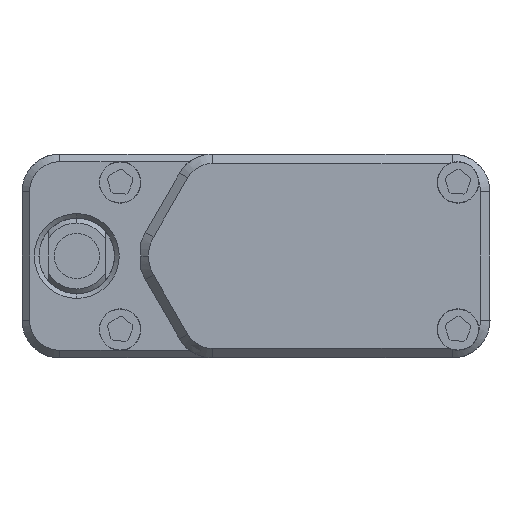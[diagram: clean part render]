
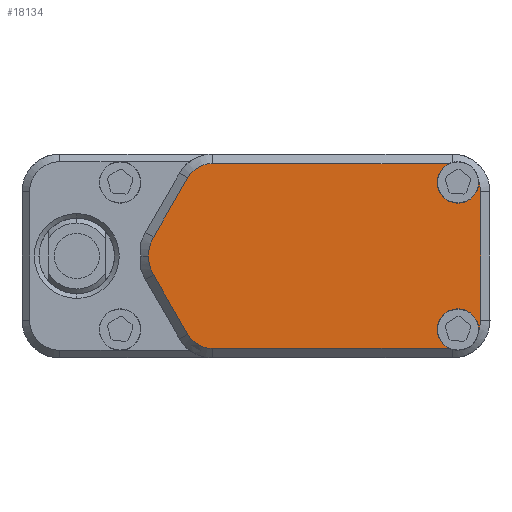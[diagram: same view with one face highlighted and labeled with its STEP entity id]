
A CAD part, front view. The second image highlights one B-rep face of the part: STEP entity #18134.
In plain terms, the highlighted planar face has unit normal (0, -1, 0).
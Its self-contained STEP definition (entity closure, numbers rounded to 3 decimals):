
#24 = CIRCLE ( 'NONE', #6945, 1.1 ) ;
#1096 = EDGE_CURVE ( 'NONE', #49240, #4390, #39667, .T. ) ;
#1484 = VERTEX_POINT ( 'NONE', #38083 ) ;
#2066 = ORIENTED_EDGE ( 'NONE', *, *, #42917, .T. ) ;
#2618 = VERTEX_POINT ( 'NONE', #33180 ) ;
#3071 = ORIENTED_EDGE ( 'NONE', *, *, #9597, .T. ) ;
#3108 = DIRECTION ( 'NONE',  ( 0., 0., -1. ) ) ;
#3703 = EDGE_CURVE ( 'NONE', #38082, #1484, #40152, .T. ) ;
#3793 = DIRECTION ( 'NONE',  ( 0., -1., 0. ) ) ;
#4027 = CARTESIAN_POINT ( 'NONE',  ( -5.432, 6.7, 1. ) ) ;
#4390 = VERTEX_POINT ( 'NONE', #51218 ) ;
#5044 = DIRECTION ( 'NONE',  ( 0., 0., -1. ) ) ;
#5426 = AXIS2_PLACEMENT_3D ( 'NONE', #33952, #33411, #30130 ) ;
#6439 = DIRECTION ( 'NONE',  ( -1., 0., 0. ) ) ;
#6545 = EDGE_CURVE ( 'NONE', #2618, #9005, #39968, .T. ) ;
#6945 = AXIS2_PLACEMENT_3D ( 'NONE', #15270, #35881, #3108 ) ;
#7351 = ORIENTED_EDGE ( 'NONE', *, *, #42056, .T. ) ;
#7373 = CARTESIAN_POINT ( 'NONE',  ( 10.4, 6.7, -3.4 ) ) ;
#7393 = CARTESIAN_POINT ( 'NONE',  ( -3.613, 6.7, -4.15 ) ) ;
#7425 = CIRCLE ( 'NONE', #9129, 2. ) ;
#7458 = ORIENTED_EDGE ( 'NONE', *, *, #21113, .T. ) ;
#8047 = CARTESIAN_POINT ( 'NONE',  ( 10.4, 6.7, 3.4 ) ) ;
#8854 = VERTEX_POINT ( 'NONE', #34734 ) ;
#9005 = VERTEX_POINT ( 'NONE', #7393 ) ;
#9129 = AXIS2_PLACEMENT_3D ( 'NONE', #52392, #23323, #40436 ) ;
#9322 = FACE_OUTER_BOUND ( 'NONE', #46884, .T. ) ;
#9597 = EDGE_CURVE ( 'NONE', #4390, #22563, #16160, .T. ) ;
#10107 = CARTESIAN_POINT ( 'NONE',  ( 11.9, 6.7, 0. ) ) ;
#10133 = CARTESIAN_POINT ( 'NONE',  ( -2.314, 6.7, 4.9 ) ) ;
#10393 = DIRECTION ( 'NONE',  ( 0., 0., 1. ) ) ;
#12546 = DIRECTION ( 'NONE',  ( 0., 0., -1. ) ) ;
#12621 = CARTESIAN_POINT ( 'NONE',  ( 11.799, 6.7, -3.94 ) ) ;
#12995 = VECTOR ( 'NONE', #10393, 1000. ) ;
#13721 = AXIS2_PLACEMENT_3D ( 'NONE', #37269, #16668, #25039 ) ;
#13743 = DIRECTION ( 'NONE',  ( 0., 1., 0. ) ) ;
#14554 = CARTESIAN_POINT ( 'NONE',  ( -2.314, 6.7, -3.4 ) ) ;
#14755 = VERTEX_POINT ( 'NONE', #19702 ) ;
#14821 = AXIS2_PLACEMENT_3D ( 'NONE', #14554, #13743, #31090 ) ;
#15270 = CARTESIAN_POINT ( 'NONE',  ( 10.7, 6.7, -3.9 ) ) ;
#16074 = CIRCLE ( 'NONE', #32521, 1.5 ) ;
#16160 = LINE ( 'NONE', #44696, #41553 ) ;
#16461 = EDGE_CURVE ( 'NONE', #44636, #8854, #18359, .T. ) ;
#16485 = CARTESIAN_POINT ( 'NONE',  ( -2.314, 6.7, 3.4 ) ) ;
#16642 = VECTOR ( 'NONE', #6439, 1000. ) ;
#16668 = DIRECTION ( 'NONE',  ( 0., -1., 0. ) ) ;
#16960 = ORIENTED_EDGE ( 'NONE', *, *, #52017, .T. ) ;
#17888 = DIRECTION ( 'NONE',  ( 0., 1., 0. ) ) ;
#18134 = ADVANCED_FACE ( 'NONE', ( #9322 ), #20988, .T. ) ;
#18359 = CIRCLE ( 'NONE', #25315, 1.1 ) ;
#19107 = VECTOR ( 'NONE', #26874, 1000. ) ;
#19702 = CARTESIAN_POINT ( 'NONE',  ( -5.432, 6.7, -1. ) ) ;
#20046 = EDGE_CURVE ( 'NONE', #44636, #53103, #32474, .T. ) ;
#20431 = CARTESIAN_POINT ( 'NONE',  ( 11.9, 6.7, 3.4 ) ) ;
#20988 = PLANE ( 'NONE',  #13721 ) ;
#21005 = DIRECTION ( 'NONE',  ( 0., 1., 0. ) ) ;
#21113 = EDGE_CURVE ( 'NONE', #22563, #23710, #7425, .T. ) ;
#21619 = ORIENTED_EDGE ( 'NONE', *, *, #3703, .T. ) ;
#22074 = AXIS2_PLACEMENT_3D ( 'NONE', #8047, #21005, #41372 ) ;
#22247 = VECTOR ( 'NONE', #44441, 1000. ) ;
#22389 = LINE ( 'NONE', #27299, #16642 ) ;
#22563 = VERTEX_POINT ( 'NONE', #4027 ) ;
#22814 = CARTESIAN_POINT ( 'NONE',  ( 0., 6.7, -4.9 ) ) ;
#23323 = DIRECTION ( 'NONE',  ( 0., -1., 0. ) ) ;
#23710 = VERTEX_POINT ( 'NONE', #46899 ) ;
#24164 = DIRECTION ( 'NONE',  ( -1., 0., 0. ) ) ;
#24236 = EDGE_CURVE ( 'NONE', #14755, #9005, #28103, .T. ) ;
#24595 = CARTESIAN_POINT ( 'NONE',  ( 10.242, 6.7, -4.9 ) ) ;
#24908 = CARTESIAN_POINT ( 'NONE',  ( 11.799, 6.7, 3.94 ) ) ;
#25039 = DIRECTION ( 'NONE',  ( 0., 0., -1. ) ) ;
#25315 = AXIS2_PLACEMENT_3D ( 'NONE', #37717, #17888, #12546 ) ;
#26141 = ORIENTED_EDGE ( 'NONE', *, *, #16461, .T. ) ;
#26676 = DIRECTION ( 'NONE',  ( 0., 1., 0. ) ) ;
#26724 = CARTESIAN_POINT ( 'NONE',  ( 11.9, 6.7, -3.4 ) ) ;
#26874 = DIRECTION ( 'NONE',  ( 1., 0., 0. ) ) ;
#27177 = CARTESIAN_POINT ( 'NONE',  ( 10.242, 6.7, 4.9 ) ) ;
#27299 = CARTESIAN_POINT ( 'NONE',  ( 0., 6.7, 4.9 ) ) ;
#27375 = VERTEX_POINT ( 'NONE', #12621 ) ;
#27443 = ORIENTED_EDGE ( 'NONE', *, *, #29362, .T. ) ;
#27839 = DIRECTION ( 'NONE',  ( -0.5, 0., -0.866 ) ) ;
#27840 = CARTESIAN_POINT ( 'NONE',  ( -5.432, 6.7, -1. ) ) ;
#28103 = LINE ( 'NONE', #27840, #22247 ) ;
#29319 = VERTEX_POINT ( 'NONE', #26724 ) ;
#29362 = EDGE_CURVE ( 'NONE', #44198, #49240, #22389, .T. ) ;
#30130 = DIRECTION ( 'NONE',  ( 0., 0., -1. ) ) ;
#31090 = DIRECTION ( 'NONE',  ( 0., 0., 1. ) ) ;
#32474 = CIRCLE ( 'NONE', #22074, 1.5 ) ;
#32521 = AXIS2_PLACEMENT_3D ( 'NONE', #7373, #32544, #49648 ) ;
#32544 = DIRECTION ( 'NONE',  ( 0., 1., 0. ) ) ;
#33064 = AXIS2_PLACEMENT_3D ( 'NONE', #36653, #36377, #24164 ) ;
#33180 = CARTESIAN_POINT ( 'NONE',  ( -2.314, 6.7, -4.9 ) ) ;
#33411 = DIRECTION ( 'NONE',  ( 0., 1., 0. ) ) ;
#33952 = CARTESIAN_POINT ( 'NONE',  ( 10.7, 6.7, 3.9 ) ) ;
#34036 = CARTESIAN_POINT ( 'NONE',  ( 10.7, 6.7, -3.9 ) ) ;
#34734 = CARTESIAN_POINT ( 'NONE',  ( 10.7, 6.7, 2.8 ) ) ;
#35174 = EDGE_CURVE ( 'NONE', #29319, #27375, #16074, .T. ) ;
#35671 = ORIENTED_EDGE ( 'NONE', *, *, #6545, .F. ) ;
#35881 = DIRECTION ( 'NONE',  ( 0., 1., 0. ) ) ;
#36377 = DIRECTION ( 'NONE',  ( 0., -1., 0. ) ) ;
#36653 = CARTESIAN_POINT ( 'NONE',  ( -3.7, 6.7, 0. ) ) ;
#37269 = CARTESIAN_POINT ( 'NONE',  ( 0., 6.7, 0. ) ) ;
#37717 = CARTESIAN_POINT ( 'NONE',  ( 10.7, 6.7, 3.9 ) ) ;
#37905 = AXIS2_PLACEMENT_3D ( 'NONE', #16485, #3793, #49599 ) ;
#38082 = VERTEX_POINT ( 'NONE', #24595 ) ;
#38083 = CARTESIAN_POINT ( 'NONE',  ( 10.7, 6.7, -2.8 ) ) ;
#38099 = ORIENTED_EDGE ( 'NONE', *, *, #52266, .T. ) ;
#39344 = ORIENTED_EDGE ( 'NONE', *, *, #35174, .F. ) ;
#39467 = ORIENTED_EDGE ( 'NONE', *, *, #51850, .T. ) ;
#39667 = CIRCLE ( 'NONE', #37905, 1.5 ) ;
#39968 = CIRCLE ( 'NONE', #14821, 1.5 ) ;
#40152 = CIRCLE ( 'NONE', #48774, 1.1 ) ;
#40436 = DIRECTION ( 'NONE',  ( -1., 0., 0. ) ) ;
#41372 = DIRECTION ( 'NONE',  ( 0., 0., 1. ) ) ;
#41553 = VECTOR ( 'NONE', #27839, 1000. ) ;
#42056 = EDGE_CURVE ( 'NONE', #23710, #14755, #42594, .T. ) ;
#42594 = CIRCLE ( 'NONE', #33064, 2. ) ;
#42917 = EDGE_CURVE ( 'NONE', #8854, #44198, #49630, .T. ) ;
#43421 = ORIENTED_EDGE ( 'NONE', *, *, #1096, .T. ) ;
#43464 = LINE ( 'NONE', #22814, #19107 ) ;
#44198 = VERTEX_POINT ( 'NONE', #27177 ) ;
#44441 = DIRECTION ( 'NONE',  ( 0.5, 0., -0.866 ) ) ;
#44636 = VERTEX_POINT ( 'NONE', #24908 ) ;
#44696 = CARTESIAN_POINT ( 'NONE',  ( -3.613, 6.7, 4.15 ) ) ;
#46107 = ORIENTED_EDGE ( 'NONE', *, *, #20046, .F. ) ;
#46884 = EDGE_LOOP ( 'NONE', ( #21619, #16960, #39344, #39467, #46107, #26141, #2066, #27443, #43421, #3071, #7458, #7351, #48274, #35671, #38099 ) ) ;
#46899 = CARTESIAN_POINT ( 'NONE',  ( -5.7, 6.7, 0. ) ) ;
#47554 = LINE ( 'NONE', #10107, #12995 ) ;
#48274 = ORIENTED_EDGE ( 'NONE', *, *, #24236, .T. ) ;
#48774 = AXIS2_PLACEMENT_3D ( 'NONE', #34036, #26676, #5044 ) ;
#49240 = VERTEX_POINT ( 'NONE', #10133 ) ;
#49599 = DIRECTION ( 'NONE',  ( 0., 0., 1. ) ) ;
#49630 = CIRCLE ( 'NONE', #5426, 1.1 ) ;
#49648 = DIRECTION ( 'NONE',  ( 0., 0., 1. ) ) ;
#51218 = CARTESIAN_POINT ( 'NONE',  ( -3.613, 6.7, 4.15 ) ) ;
#51850 = EDGE_CURVE ( 'NONE', #29319, #53103, #47554, .T. ) ;
#52017 = EDGE_CURVE ( 'NONE', #1484, #27375, #24, .T. ) ;
#52266 = EDGE_CURVE ( 'NONE', #2618, #38082, #43464, .T. ) ;
#52392 = CARTESIAN_POINT ( 'NONE',  ( -3.7, 6.7, 0. ) ) ;
#53103 = VERTEX_POINT ( 'NONE', #20431 ) ;
